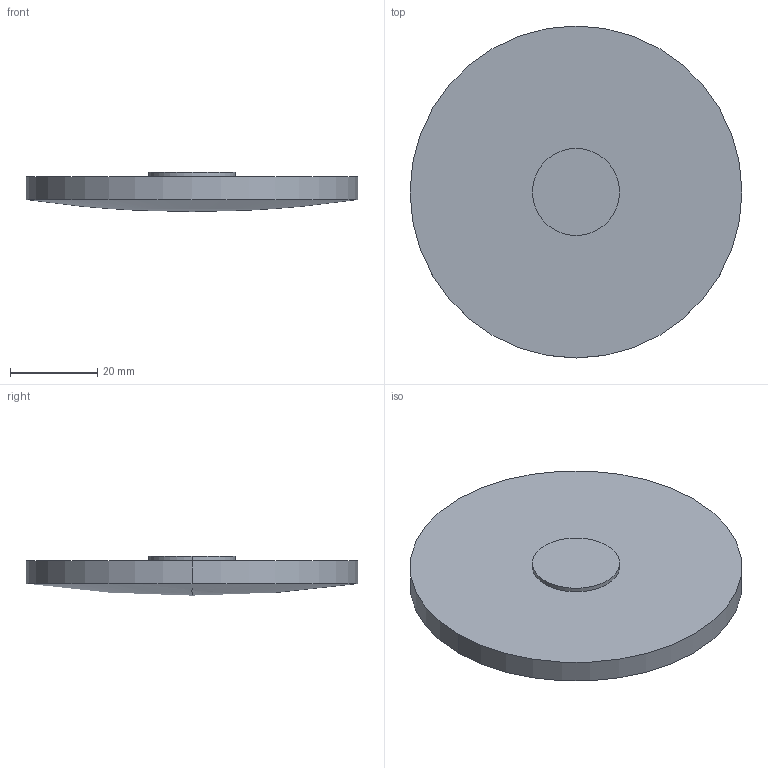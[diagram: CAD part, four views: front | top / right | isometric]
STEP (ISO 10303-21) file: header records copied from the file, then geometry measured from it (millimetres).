
FILE_DESCRIPTION(('STEP AP214'),'1');
FILE_NAME('LL-76-380.STEP','2020-03-09T17:41:19',(' '),(' '),'Spatial InterOp 3D',' ',' ');
FILE_SCHEMA(('AUTOMOTIVE_DESIGN { 1 0 10303 214 1 1 1 1 }'));
Length unit declared in the file: millimetre
Products named in the file (1): 1
Bounding box: 76.2 x 76.2 x 9 mm (x, y, z)
Volume: 30529.6 mm3; surface area: 11091.7 mm2
Topology: 2 solids, 2 shells, 9 faces, 16 edges, 9 vertices
Faces by surface type: cylinder 4, plane 3, sphere 2
Entity records: 229 total; most frequent: DIRECTION 46, CARTESIAN_POINT 34, ORIENTED_EDGE 28, AXIS2_PLACEMENT_3D 21, EDGE_CURVE 14, CIRCLE 10, ADVANCED_FACE 9, FACE_OUTER_BOUND 9
